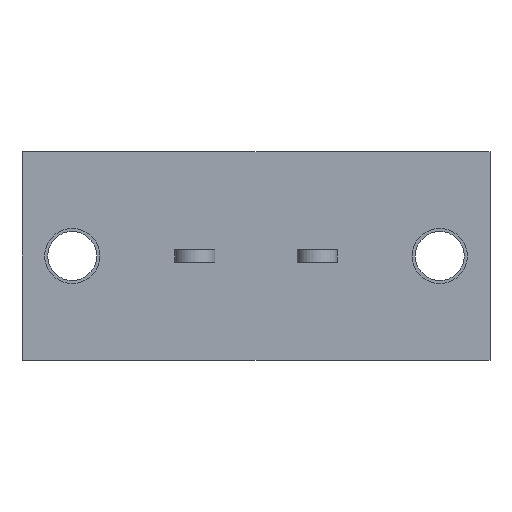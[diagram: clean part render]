
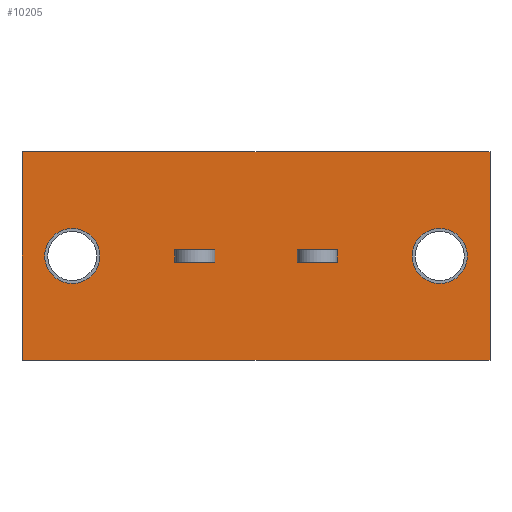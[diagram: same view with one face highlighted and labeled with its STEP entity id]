
A CAD part, front view. The second image highlights one B-rep face of the part: STEP entity #10205.
In plain terms, the highlighted planar face has unit normal (0, -1, 0).
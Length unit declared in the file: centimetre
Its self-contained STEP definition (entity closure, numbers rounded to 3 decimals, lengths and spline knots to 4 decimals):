
#561=CIRCLE('',#10570,0.225);
#602=CIRCLE('',#10811,0.225);
#619=VERTEX_POINT('',#12940);
#620=VERTEX_POINT('',#12941);
#624=VERTEX_POINT('',#12951);
#651=VERTEX_POINT('',#13018);
#780=VERTEX_POINT('',#13454);
#787=VERTEX_POINT('',#13467);
#788=VERTEX_POINT('',#13482);
#1240=VERTEX_POINT('',#15341);
#1241=VERTEX_POINT('',#15343);
#1246=VERTEX_POINT('',#15355);
#1253=VERTEX_POINT('',#15380);
#1254=VERTEX_POINT('',#15381);
#1258=VERTEX_POINT('',#15391);
#1268=VERTEX_POINT('',#15422);
#1639=VECTOR('',#11005,1.);
#1643=VECTOR('',#11012,1.);
#1667=VECTOR('',#11063,1.);
#1670=VECTOR('',#11075,1.);
#1813=VECTOR('',#11405,1.);
#2324=VECTOR('',#12231,1.);
#2341=VECTOR('',#12258,1.);
#2345=VECTOR('',#12265,1.);
#2355=VECTOR('',#12293,1.);
#2358=VECTOR('',#12305,1.);
#2399=VECTOR('',#12371,1.);
#2400=VECTOR('',#12372,1.);
#2811=LINE('',#12939,#1639);
#2815=LINE('',#12950,#1643);
#2839=LINE('',#13017,#1667);
#2842=LINE('',#13028,#1670);
#2985=LINE('',#13468,#1813);
#3496=LINE('',#15342,#2324);
#3513=LINE('',#15379,#2341);
#3517=LINE('',#15390,#2345);
#3527=LINE('',#15421,#2355);
#3530=LINE('',#15432,#2358);
#3571=LINE('',#15522,#2399);
#3572=LINE('',#15523,#2400);
#3983=EDGE_CURVE('',#619,#620,#2811,.T.);
#3988=EDGE_CURVE('',#624,#619,#2815,.T.);
#4021=EDGE_CURVE('',#620,#651,#2839,.T.);
#4026=EDGE_CURVE('',#651,#624,#2842,.T.);
#4224=EDGE_CURVE('',#787,#780,#2985,.T.);
#4231=EDGE_CURVE('',#788,#788,#561,.T.);
#4897=EDGE_CURVE('',#1241,#1240,#3496,.T.);
#4903=EDGE_CURVE('',#1246,#1246,#602,.T.);
#4915=EDGE_CURVE('',#1253,#1254,#3513,.T.);
#4920=EDGE_CURVE('',#1258,#1253,#3517,.T.);
#4935=EDGE_CURVE('',#1254,#1268,#3527,.T.);
#4940=EDGE_CURVE('',#1268,#1258,#3530,.T.);
#4985=EDGE_CURVE('',#1240,#780,#3571,.T.);
#4986=EDGE_CURVE('',#787,#1241,#3572,.T.);
#7453=ORIENTED_EDGE('',*,*,#3988,.T.);
#7454=ORIENTED_EDGE('',*,*,#3983,.T.);
#7455=ORIENTED_EDGE('',*,*,#4021,.T.);
#7456=ORIENTED_EDGE('',*,*,#4026,.T.);
#7457=ORIENTED_EDGE('',*,*,#4231,.T.);
#7458=ORIENTED_EDGE('',*,*,#4903,.T.);
#7459=ORIENTED_EDGE('',*,*,#4920,.T.);
#7460=ORIENTED_EDGE('',*,*,#4915,.T.);
#7461=ORIENTED_EDGE('',*,*,#4935,.T.);
#7462=ORIENTED_EDGE('',*,*,#4940,.T.);
#7463=ORIENTED_EDGE('',*,*,#4985,.T.);
#7464=ORIENTED_EDGE('',*,*,#4224,.F.);
#7465=ORIENTED_EDGE('',*,*,#4986,.T.);
#7466=ORIENTED_EDGE('',*,*,#4897,.T.);
#8969=EDGE_LOOP('',(#7453,#7454,#7455,#7456));
#8970=EDGE_LOOP('',(#7457));
#8971=EDGE_LOOP('',(#7458));
#8972=EDGE_LOOP('',(#7459,#7460,#7461,#7462));
#8973=EDGE_LOOP('',(#7463,#7464,#7465,#7466));
#9613=FACE_BOUND('',#8969,.T.);
#9614=FACE_BOUND('',#8970,.T.);
#9615=FACE_BOUND('',#8971,.T.);
#9616=FACE_BOUND('',#8972,.T.);
#9617=FACE_BOUND('',#8973,.T.);
#10205=ADVANCED_FACE('',(#9613,#9614,#9615,#9616,#9617),#17313,.T.);
#10570=AXIS2_PLACEMENT_3D('',#13481,#11419,#11420);
#10811=AXIS2_PLACEMENT_3D('',#15354,#12239,#12240);
#10856=AXIS2_PLACEMENT_3D('',#15521,#12370,$);
#11005=DIRECTION('',(0.,0.,-1.));
#11012=DIRECTION('',(1.,0.,0.));
#11063=DIRECTION('',(-1.,0.,0.));
#11075=DIRECTION('',(0.,0.,1.));
#11405=DIRECTION('',(0.,0.,-1.));
#11419=DIRECTION('',(0.,1.,0.));
#11420=DIRECTION('',(0.,0.,0.225));
#12231=DIRECTION('',(0.,0.,-1.));
#12239=DIRECTION('',(0.,1.,0.));
#12240=DIRECTION('',(0.,0.,0.225));
#12258=DIRECTION('',(0.,0.,-1.));
#12265=DIRECTION('',(1.,0.,0.));
#12293=DIRECTION('',(-1.,0.,0.));
#12305=DIRECTION('',(0.,0.,1.));
#12370=DIRECTION('',(0.,-1.,0.));
#12371=DIRECTION('',(1.,0.,0.));
#12372=DIRECTION('',(-1.,0.,0.));
#12939=CARTESIAN_POINT('',(1.755,0.,0.));
#12940=CARTESIAN_POINT('',(1.755,0.,0.05));
#12941=CARTESIAN_POINT('',(1.755,0.,-0.05));
#12950=CARTESIAN_POINT('',(0.795,0.,0.05));
#12951=CARTESIAN_POINT('',(1.425,0.,0.05));
#13017=CARTESIAN_POINT('',(0.795,0.,-0.05));
#13018=CARTESIAN_POINT('',(1.425,0.,-0.05));
#13028=CARTESIAN_POINT('',(1.425,0.,0.));
#13454=CARTESIAN_POINT('',(3.,0.,-0.85));
#13467=CARTESIAN_POINT('',(3.,0.,0.85));
#13468=CARTESIAN_POINT('',(3.,0.,0.85));
#13481=CARTESIAN_POINT('',(2.59,0.,0.));
#13482=CARTESIAN_POINT('',(2.59,0.,-0.225));
#15341=CARTESIAN_POINT('',(-0.82,0.,-0.85));
#15342=CARTESIAN_POINT('',(-0.82,0.,0.85));
#15343=CARTESIAN_POINT('',(-0.82,0.,0.85));
#15354=CARTESIAN_POINT('',(-0.41,0.,0.));
#15355=CARTESIAN_POINT('',(-0.41,0.,-0.225));
#15379=CARTESIAN_POINT('',(0.755,0.,0.));
#15380=CARTESIAN_POINT('',(0.755,0.,0.05));
#15381=CARTESIAN_POINT('',(0.755,0.,-0.05));
#15390=CARTESIAN_POINT('',(0.295,0.,0.05));
#15391=CARTESIAN_POINT('',(0.425,0.,0.05));
#15421=CARTESIAN_POINT('',(0.295,0.,-0.05));
#15422=CARTESIAN_POINT('',(0.425,0.,-0.05));
#15432=CARTESIAN_POINT('',(0.425,0.,0.));
#15521=CARTESIAN_POINT('',(0.,0.,0.));
#15522=CARTESIAN_POINT('',(1.,0.,-0.85));
#15523=CARTESIAN_POINT('',(0.,0.,0.85));
#17313=PLANE('',#10856);
